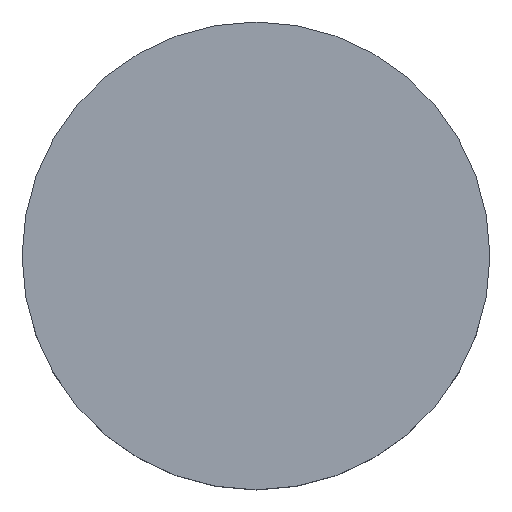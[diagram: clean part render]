
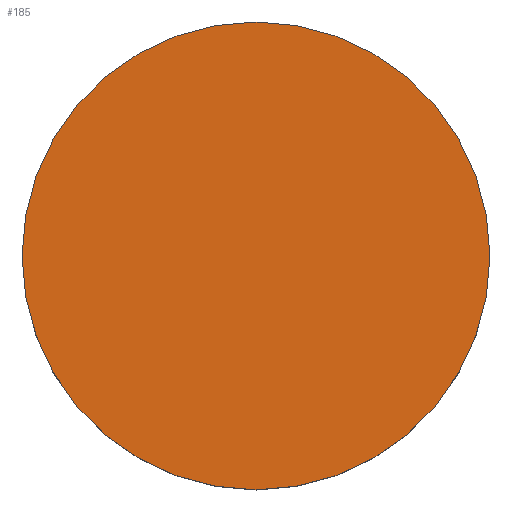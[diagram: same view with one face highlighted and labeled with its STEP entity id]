
A CAD part, top view. The second image highlights one B-rep face of the part: STEP entity #185.
In plain terms, the highlighted planar face has unit normal (0, 0, 1).
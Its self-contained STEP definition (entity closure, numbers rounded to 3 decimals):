
#185=ADVANCED_FACE('',(#233),#222,.T.);
#222=PLANE('',#622);
#233=FACE_OUTER_BOUND('',#261,.T.);
#261=EDGE_LOOP('',(#307,#308));
#307=ORIENTED_EDGE('',*,*,#497,.F.);
#308=ORIENTED_EDGE('',*,*,#498,.F.);
#451=VERTEX_POINT('',#907);
#452=VERTEX_POINT('',#908);
#497=EDGE_CURVE('',#451,#452,#569,.T.);
#498=EDGE_CURVE('',#452,#451,#570,.T.);
#569=CIRCLE('',#620,11.5);
#570=CIRCLE('',#621,11.5);
#620=AXIS2_PLACEMENT_3D('',#906,#709,#710);
#621=AXIS2_PLACEMENT_3D('',#909,#711,#712);
#622=AXIS2_PLACEMENT_3D('',#910,#713,#714);
#709=DIRECTION('',(0.,0.,-1.));
#710=DIRECTION('',(0.,1.,0.));
#711=DIRECTION('',(0.,0.,-1.));
#712=DIRECTION('',(0.,-1.,0.));
#713=DIRECTION('',(0.,0.,1.));
#714=DIRECTION('',(0.,-1.,0.));
#906=CARTESIAN_POINT('',(0.,0.,5.));
#907=CARTESIAN_POINT('',(11.5,0.,5.));
#908=CARTESIAN_POINT('',(-11.5,0.,5.));
#909=CARTESIAN_POINT('',(0.,0.,5.));
#910=CARTESIAN_POINT('',(0.,0.,5.));
